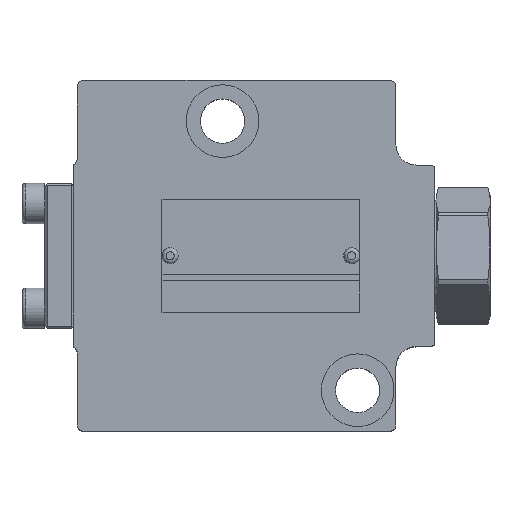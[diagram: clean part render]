
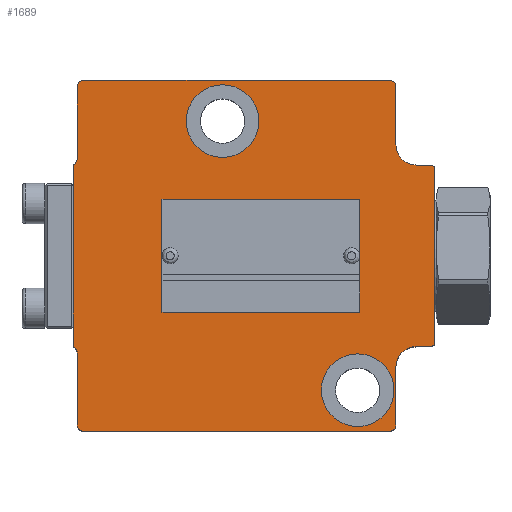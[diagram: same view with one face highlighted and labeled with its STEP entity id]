
A CAD part, top view. The second image highlights one B-rep face of the part: STEP entity #1689.
In plain terms, the highlighted planar face has unit normal (0, 0, 1).
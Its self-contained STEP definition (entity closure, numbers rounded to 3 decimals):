
#1109=PLANE('',#8848);
#1381=FACE_BOUND('',#2654,.T.);
#1382=FACE_BOUND('',#2655,.T.);
#1383=FACE_BOUND('',#2656,.T.);
#1384=FACE_BOUND('',#2657,.T.);
#1385=FACE_BOUND('',#2658,.T.);
#1689=ADVANCED_FACE('',(#1381,#1382,#1383,#1384,#1385),#1109,.F.);
#2654=EDGE_LOOP('',(#4823));
#2655=EDGE_LOOP('',(#4824));
#2656=EDGE_LOOP('',(#4825));
#2657=EDGE_LOOP('',(#4826));
#2658=EDGE_LOOP('',(#4827,#4828,#4829,#4830,#4831,#4832,#4833,#4834,#4835,
#4836,#4837,#4838,#4839,#4840,#4841,#4842,#4843,#4844,#4845,#4846));
#3640=LINE('',#16946,#4111);
#3641=LINE('',#16951,#4112);
#3642=LINE('',#16955,#4113);
#3643=LINE('',#16959,#4114);
#3644=LINE('',#16963,#4115);
#3645=LINE('',#16967,#4116);
#3646=LINE('',#16971,#4117);
#3647=LINE('',#16975,#4118);
#3648=LINE('',#16979,#4119);
#3649=LINE('',#16983,#4120);
#4111=VECTOR('',#9748,1.);
#4112=VECTOR('',#9751,1.);
#4113=VECTOR('',#9754,1.);
#4114=VECTOR('',#9757,1.);
#4115=VECTOR('',#9760,1.);
#4116=VECTOR('',#9763,1.);
#4117=VECTOR('',#9766,1.);
#4118=VECTOR('',#9769,1.);
#4119=VECTOR('',#9772,1.);
#4120=VECTOR('',#9775,1.);
#4823=ORIENTED_EDGE('',*,*,#7600,.T.);
#4824=ORIENTED_EDGE('',*,*,#7601,.T.);
#4825=ORIENTED_EDGE('',*,*,#7602,.T.);
#4826=ORIENTED_EDGE('',*,*,#7603,.T.);
#4827=ORIENTED_EDGE('',*,*,#7604,.F.);
#4828=ORIENTED_EDGE('',*,*,#7605,.F.);
#4829=ORIENTED_EDGE('',*,*,#7606,.F.);
#4830=ORIENTED_EDGE('',*,*,#7607,.F.);
#4831=ORIENTED_EDGE('',*,*,#7608,.F.);
#4832=ORIENTED_EDGE('',*,*,#7609,.F.);
#4833=ORIENTED_EDGE('',*,*,#7610,.F.);
#4834=ORIENTED_EDGE('',*,*,#7611,.F.);
#4835=ORIENTED_EDGE('',*,*,#7612,.F.);
#4836=ORIENTED_EDGE('',*,*,#7613,.F.);
#4837=ORIENTED_EDGE('',*,*,#7614,.T.);
#4838=ORIENTED_EDGE('',*,*,#7615,.F.);
#4839=ORIENTED_EDGE('',*,*,#7616,.F.);
#4840=ORIENTED_EDGE('',*,*,#7617,.F.);
#4841=ORIENTED_EDGE('',*,*,#7618,.F.);
#4842=ORIENTED_EDGE('',*,*,#7619,.F.);
#4843=ORIENTED_EDGE('',*,*,#7620,.F.);
#4844=ORIENTED_EDGE('',*,*,#7621,.F.);
#4845=ORIENTED_EDGE('',*,*,#7622,.F.);
#4846=ORIENTED_EDGE('',*,*,#7623,.F.);
#6822=VERTEX_POINT('',#16939);
#6823=VERTEX_POINT('',#16941);
#6824=VERTEX_POINT('',#16943);
#6825=VERTEX_POINT('',#16945);
#6826=VERTEX_POINT('',#16947);
#6827=VERTEX_POINT('',#16948);
#6828=VERTEX_POINT('',#16950);
#6829=VERTEX_POINT('',#16952);
#6830=VERTEX_POINT('',#16954);
#6831=VERTEX_POINT('',#16956);
#6832=VERTEX_POINT('',#16958);
#6833=VERTEX_POINT('',#16960);
#6834=VERTEX_POINT('',#16962);
#6835=VERTEX_POINT('',#16964);
#6836=VERTEX_POINT('',#16966);
#6837=VERTEX_POINT('',#16968);
#6838=VERTEX_POINT('',#16970);
#6839=VERTEX_POINT('',#16972);
#6840=VERTEX_POINT('',#16974);
#6841=VERTEX_POINT('',#16976);
#6842=VERTEX_POINT('',#16978);
#6843=VERTEX_POINT('',#16980);
#6844=VERTEX_POINT('',#16982);
#6845=VERTEX_POINT('',#16984);
#7600=EDGE_CURVE('',#6822,#6822,#8503,.T.);
#7601=EDGE_CURVE('',#6823,#6823,#8504,.T.);
#7602=EDGE_CURVE('',#6824,#6824,#8505,.T.);
#7603=EDGE_CURVE('',#6825,#6825,#8506,.T.);
#7604=EDGE_CURVE('',#6826,#6827,#3640,.T.);
#7605=EDGE_CURVE('',#6828,#6826,#8507,.T.);
#7606=EDGE_CURVE('',#6829,#6828,#3641,.T.);
#7607=EDGE_CURVE('',#6830,#6829,#8508,.T.);
#7608=EDGE_CURVE('',#6831,#6830,#3642,.T.);
#7609=EDGE_CURVE('',#6832,#6831,#8509,.T.);
#7610=EDGE_CURVE('',#6833,#6832,#3643,.T.);
#7611=EDGE_CURVE('',#6834,#6833,#8510,.T.);
#7612=EDGE_CURVE('',#6835,#6834,#3644,.T.);
#7613=EDGE_CURVE('',#6836,#6835,#8511,.T.);
#7614=EDGE_CURVE('',#6836,#6837,#3645,.T.);
#7615=EDGE_CURVE('',#6838,#6837,#8512,.T.);
#7616=EDGE_CURVE('',#6839,#6838,#3646,.T.);
#7617=EDGE_CURVE('',#6840,#6839,#8513,.T.);
#7618=EDGE_CURVE('',#6841,#6840,#3647,.T.);
#7619=EDGE_CURVE('',#6842,#6841,#8514,.T.);
#7620=EDGE_CURVE('',#6843,#6842,#3648,.T.);
#7621=EDGE_CURVE('',#6844,#6843,#8515,.T.);
#7622=EDGE_CURVE('',#6845,#6844,#3649,.T.);
#7623=EDGE_CURVE('',#6827,#6845,#8516,.T.);
#8503=CIRCLE('',#8834,0.935);
#8504=CIRCLE('',#8835,0.935);
#8505=CIRCLE('',#8836,9.);
#8506=CIRCLE('',#8837,9.);
#8507=CIRCLE('',#8838,1.6);
#8508=CIRCLE('',#8839,5.);
#8509=CIRCLE('',#8840,1.6);
#8510=CIRCLE('',#8841,1.6);
#8511=CIRCLE('',#8842,1.6);
#8512=CIRCLE('',#8843,1.6);
#8513=CIRCLE('',#8844,1.6);
#8514=CIRCLE('',#8845,1.6);
#8515=CIRCLE('',#8846,5.);
#8516=CIRCLE('',#8847,1.6);
#8834=AXIS2_PLACEMENT_3D('',#16938,#9740,#9741);
#8835=AXIS2_PLACEMENT_3D('',#16940,#9742,#9743);
#8836=AXIS2_PLACEMENT_3D('',#16942,#9744,#9745);
#8837=AXIS2_PLACEMENT_3D('',#16944,#9746,#9747);
#8838=AXIS2_PLACEMENT_3D('',#16949,#9749,#9750);
#8839=AXIS2_PLACEMENT_3D('',#16953,#9752,#9753);
#8840=AXIS2_PLACEMENT_3D('',#16957,#9755,#9756);
#8841=AXIS2_PLACEMENT_3D('',#16961,#9758,#9759);
#8842=AXIS2_PLACEMENT_3D('',#16965,#9761,#9762);
#8843=AXIS2_PLACEMENT_3D('',#16969,#9764,#9765);
#8844=AXIS2_PLACEMENT_3D('',#16973,#9767,#9768);
#8845=AXIS2_PLACEMENT_3D('',#16977,#9770,#9771);
#8846=AXIS2_PLACEMENT_3D('',#16981,#9773,#9774);
#8847=AXIS2_PLACEMENT_3D('',#16985,#9776,#9777);
#8848=AXIS2_PLACEMENT_3D('',#16986,#9778,#9779);
#9740=DIRECTION('',(0.,0.,-1.));
#9741=DIRECTION('',(-1.,0.,0.));
#9742=DIRECTION('',(0.,0.,-1.));
#9743=DIRECTION('',(-1.,0.,0.));
#9744=DIRECTION('',(0.,0.,-1.));
#9745=DIRECTION('',(-1.,0.,0.));
#9746=DIRECTION('',(0.,0.,-1.));
#9747=DIRECTION('',(-1.,0.,0.));
#9748=DIRECTION('',(0.,-1.,0.));
#9749=DIRECTION('',(0.,0.,-1.));
#9750=DIRECTION('',(1.,0.,0.));
#9751=DIRECTION('',(1.,0.,0.));
#9752=DIRECTION('',(0.,0.,1.));
#9753=DIRECTION('',(1.,0.,0.));
#9754=DIRECTION('',(0.,-1.,0.));
#9755=DIRECTION('',(0.,0.,-1.));
#9756=DIRECTION('',(1.,0.,0.));
#9757=DIRECTION('',(1.,0.,0.));
#9758=DIRECTION('',(0.,0.,-1.));
#9759=DIRECTION('',(1.,0.,0.));
#9760=DIRECTION('',(0.,1.,0.));
#9761=DIRECTION('',(0.,0.,1.));
#9762=DIRECTION('',(1.,0.,0.));
#9763=DIRECTION('',(0.,-1.,0.));
#9764=DIRECTION('',(0.,0.,1.));
#9765=DIRECTION('',(1.,0.,0.));
#9766=DIRECTION('',(0.,1.,0.));
#9767=DIRECTION('',(0.,0.,-1.));
#9768=DIRECTION('',(1.,0.,0.));
#9769=DIRECTION('',(-1.,0.,0.));
#9770=DIRECTION('',(0.,0.,-1.));
#9771=DIRECTION('',(1.,0.,0.));
#9772=DIRECTION('',(0.,-1.,0.));
#9773=DIRECTION('',(0.,0.,1.));
#9774=DIRECTION('',(1.,0.,0.));
#9775=DIRECTION('',(-1.,0.,0.));
#9776=DIRECTION('',(0.,0.,-1.));
#9777=DIRECTION('',(1.,0.,0.));
#9778=DIRECTION('',(0.,0.,-1.));
#9779=DIRECTION('',(-1.,0.,0.));
#16938=CARTESIAN_POINT('',(273.361,119.156,0.));
#16939=CARTESIAN_POINT('',(272.426,119.156,0.));
#16940=CARTESIAN_POINT('',(228.361,119.156,0.));
#16941=CARTESIAN_POINT('',(227.426,119.156,0.));
#16942=CARTESIAN_POINT('',(241.363,152.556,0.));
#16943=CARTESIAN_POINT('',(232.363,152.556,0.));
#16944=CARTESIAN_POINT('',(274.863,85.856,0.));
#16945=CARTESIAN_POINT('',(265.863,85.856,0.));
#16946=CARTESIAN_POINT('',(293.858,146.156,0.));
#16947=CARTESIAN_POINT('',(293.858,141.22,0.));
#16948=CARTESIAN_POINT('',(293.858,97.094,0.));
#16949=CARTESIAN_POINT('',(292.761,140.056,0.));
#16950=CARTESIAN_POINT('',(292.761,141.656,0.));
#16951=CARTESIAN_POINT('',(289.361,141.656,0.));
#16952=CARTESIAN_POINT('',(289.361,141.656,0.));
#16953=CARTESIAN_POINT('',(289.361,146.656,0.));
#16954=CARTESIAN_POINT('',(284.361,146.656,0.));
#16955=CARTESIAN_POINT('',(284.361,161.056,0.));
#16956=CARTESIAN_POINT('',(284.361,161.056,0.));
#16957=CARTESIAN_POINT('',(282.761,161.056,0.));
#16958=CARTESIAN_POINT('',(282.761,162.656,0.));
#16959=CARTESIAN_POINT('',(256.861,162.656,0.));
#16960=CARTESIAN_POINT('',(206.961,162.656,0.));
#16961=CARTESIAN_POINT('',(206.961,161.056,0.));
#16962=CARTESIAN_POINT('',(205.361,161.056,0.));
#16963=CARTESIAN_POINT('',(205.361,143.256,0.));
#16964=CARTESIAN_POINT('',(205.361,143.256,0.));
#16965=CARTESIAN_POINT('',(203.761,143.256,0.));
#16966=CARTESIAN_POINT('',(204.361,141.773,0.));
#16967=CARTESIAN_POINT('',(204.361,161.056,0.));
#16968=CARTESIAN_POINT('',(204.361,96.539,0.));
#16969=CARTESIAN_POINT('',(203.761,95.056,0.));
#16970=CARTESIAN_POINT('',(205.361,95.056,0.));
#16971=CARTESIAN_POINT('',(205.361,77.256,0.));
#16972=CARTESIAN_POINT('',(205.361,77.256,0.));
#16973=CARTESIAN_POINT('',(206.961,77.256,0.));
#16974=CARTESIAN_POINT('',(206.961,75.656,0.));
#16975=CARTESIAN_POINT('',(282.761,75.656,0.));
#16976=CARTESIAN_POINT('',(282.761,75.656,0.));
#16977=CARTESIAN_POINT('',(282.761,77.256,0.));
#16978=CARTESIAN_POINT('',(284.361,77.256,0.));
#16979=CARTESIAN_POINT('',(284.361,91.656,0.));
#16980=CARTESIAN_POINT('',(284.361,91.656,0.));
#16981=CARTESIAN_POINT('',(289.361,91.656,0.));
#16982=CARTESIAN_POINT('',(289.361,96.656,0.));
#16983=CARTESIAN_POINT('',(292.758,96.656,0.));
#16984=CARTESIAN_POINT('',(292.758,96.656,0.));
#16985=CARTESIAN_POINT('',(292.758,98.256,0.));
#16986=CARTESIAN_POINT('',(282.761,161.056,0.));
